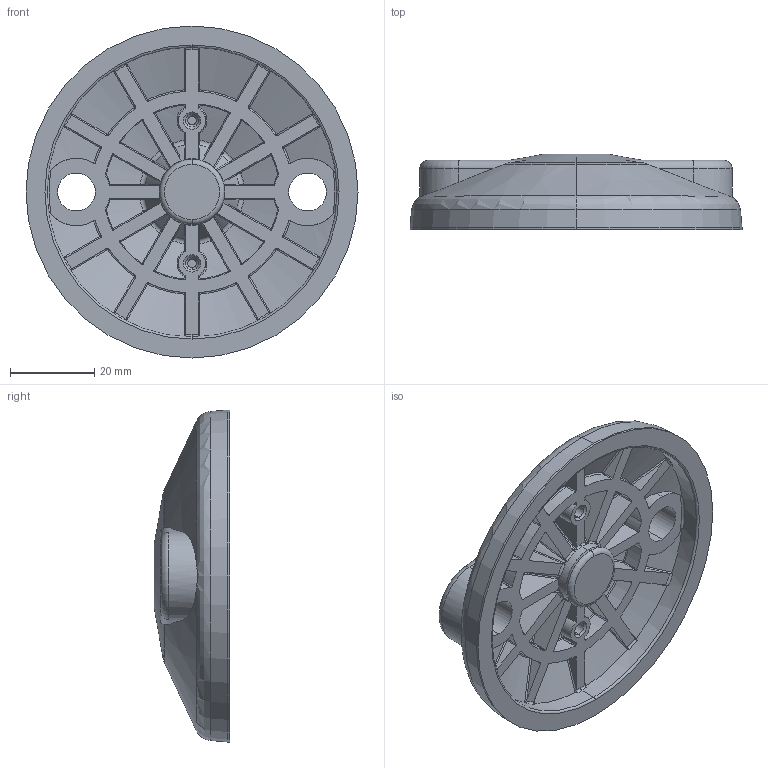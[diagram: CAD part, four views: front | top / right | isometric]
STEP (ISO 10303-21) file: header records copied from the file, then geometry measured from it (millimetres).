
FILE_DESCRIPTION(('STEP AP214'),'1');
FILE_NAME('C:/Program Files (x86)/Trace Software/PartsXML Tools/RobotPartsAuto/FATH/CAD/Temp/FATH_098D080KB.stp','2016-05-24T13:59:56',('TraceParts'),('TraceParts S.A.'),'Spatial InterOp 3D',' ',' ');
FILE_SCHEMA(('automotive_design'));
Length unit declared in the file: millimetre
Products named in the file (1): V16-0,3
Bounding box: 79 x 18 x 79 mm (x, y, z)
Volume: 36148.8 mm3; surface area: 17188.6 mm2
Topology: 1 solids, 1 shells, 515 faces, 1356 edges, 805 vertices
Faces by surface type: cylinder 130, bspline 104, plane 79, torus 76, sphere 70, cone 56
Entity records: 22781 total; most frequent: CARTESIAN_POINT 7001, ORIENTED_EDGE 2628, DIRECTION 2302, EDGE_CURVE 1314, AXIS2_PLACEMENT_3D 1026, VERTEX_POINT 805, CIRCLE 614, EDGE_LOOP 523
